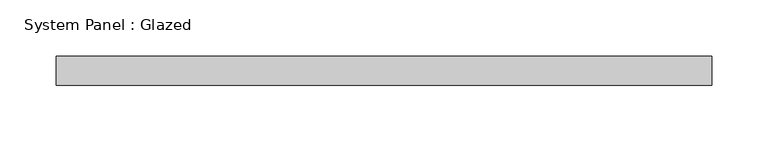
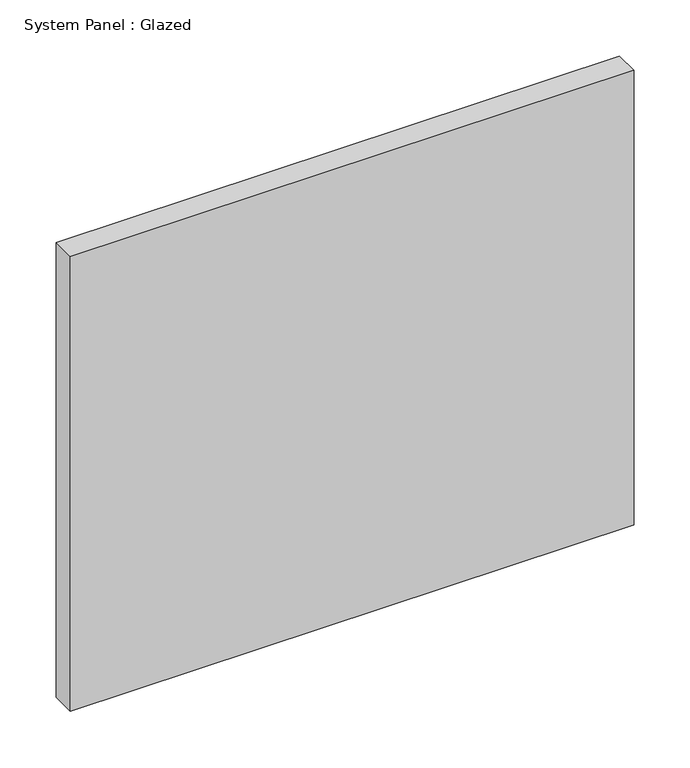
"""IFC4 building model written with IfcOpenShell, lengths in millimetres: plate geometry, System Panel : Glazed."""

from ifc_helpers import new_model, si_unit, origin, origin_with_axes, place, context, project, spatial, polyline, outline, extrude, source, transform, mapped, element, save


def system_panel_glazed_8b5984c8(model_context):
    return source(origin(), model_context, "Body", "SweptSolid", [
        extrude(outline(polyline([(290.2999409, -12.7), (-290.2999409, -12.7), (-290.2999409, 12.7), (290.2999409, 12.7), (290.2999409, -12.7)])), origin_with_axes(), (0.0, 0.0, 1.0), 495.3),
    ])


if __name__ == "__main__":
    model = new_model("IFC4")
    model_context = context("Model", 3, world=origin())
    ifc_project = project(units=[si_unit("LENGTHUNIT", "METRE", prefix="MILLI")], contexts=[model_context])
    site = spatial("IfcSite", under=ifc_project)
    building = spatial("IfcBuilding", under=site)
    placement = place(None, origin())
    system_panel_glazed_shape = system_panel_glazed_8b5984c8(model_context)
    element("IfcPlate", 1, ObjectType="System Panel : Glazed", at=placement, inside=building, context=model_context, shape_type="MappedRepresentation", body=[
        mapped(system_panel_glazed_shape, transform((0.0, 0.0, 0.0), x_axis=(1.0, 0.0, 0.0), y_axis=(0.0, 1.0, 0.0), z_axis=(0.0, 0.0, 1.0))),
    ])
    save(model, "model.ifc")
